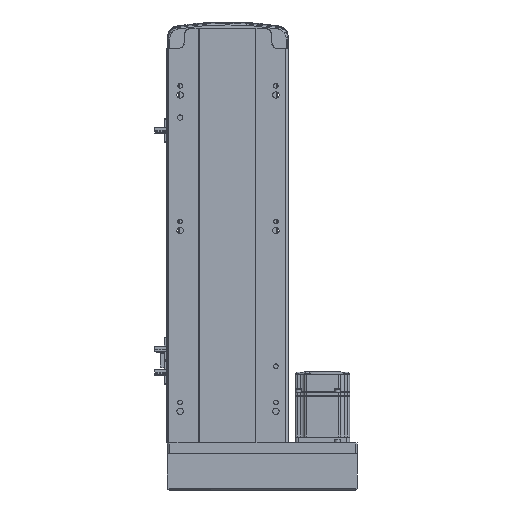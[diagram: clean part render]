
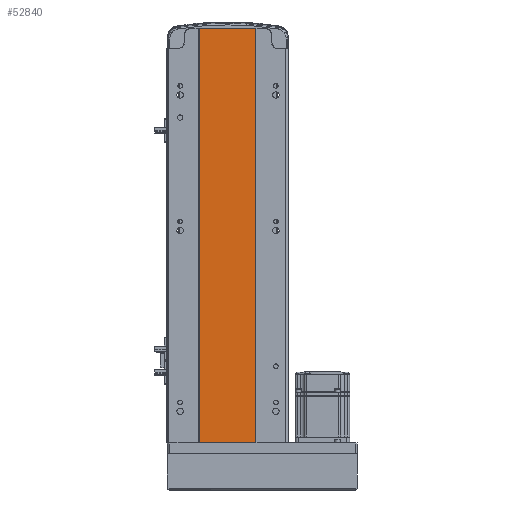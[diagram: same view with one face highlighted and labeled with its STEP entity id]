
A CAD part, front view. The second image highlights one B-rep face of the part: STEP entity #52840.
In plain terms, the highlighted planar face has unit normal (0, -1, 0).
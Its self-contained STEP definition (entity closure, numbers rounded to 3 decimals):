
#564 = VECTOR ( 'NONE', #15394, 1000. ) ;
#2330 = VERTEX_POINT ( 'NONE', #35107 ) ;
#2711 = DIRECTION ( 'NONE',  ( 0., 1., 0. ) ) ;
#3604 = CARTESIAN_POINT ( 'NONE',  ( -32., 1., 459. ) ) ;
#6360 = ORIENTED_EDGE ( 'NONE', *, *, #21167, .F. ) ;
#6529 = LINE ( 'NONE', #9512, #16705 ) ;
#8148 = AXIS2_PLACEMENT_3D ( 'NONE', #15619, #2711, #36917 ) ;
#9364 = VERTEX_POINT ( 'NONE', #3604 ) ;
#9512 = CARTESIAN_POINT ( 'NONE',  ( 30., 1., 459. ) ) ;
#15394 = DIRECTION ( 'NONE',  ( 1., 0., 0. ) ) ;
#15619 = CARTESIAN_POINT ( 'NONE',  ( -32., 1., 459. ) ) ;
#16705 = VECTOR ( 'NONE', #43907, 1000. ) ;
#17707 = CARTESIAN_POINT ( 'NONE',  ( -32., 1., 0. ) ) ;
#17802 = VECTOR ( 'NONE', #20585, 1000. ) ;
#18677 = VERTEX_POINT ( 'NONE', #34249 ) ;
#19467 = LINE ( 'NONE', #17707, #52137 ) ;
#20195 = ORIENTED_EDGE ( 'NONE', *, *, #47502, .T. ) ;
#20585 = DIRECTION ( 'NONE',  ( 0., 0., -1. ) ) ;
#21167 = EDGE_CURVE ( 'NONE', #37291, #2330, #6529, .T. ) ;
#26454 = FACE_OUTER_BOUND ( 'NONE', #50500, .T. ) ;
#28158 = PLANE ( 'NONE',  #8148 ) ;
#31431 = LINE ( 'NONE', #49534, #17802 ) ;
#33872 = LINE ( 'NONE', #47103, #564 ) ;
#34249 = CARTESIAN_POINT ( 'NONE',  ( -32., 1., 0. ) ) ;
#35031 = DIRECTION ( 'NONE',  ( 1., 0., 0. ) ) ;
#35107 = CARTESIAN_POINT ( 'NONE',  ( 30., 1., 0. ) ) ;
#36917 = DIRECTION ( 'NONE',  ( -1., 0., 0. ) ) ;
#37128 = EDGE_CURVE ( 'NONE', #9364, #37291, #33872, .T. ) ;
#37291 = VERTEX_POINT ( 'NONE', #48372 ) ;
#40019 = EDGE_CURVE ( 'NONE', #9364, #18677, #31431, .T. ) ;
#43907 = DIRECTION ( 'NONE',  ( 0., 0., -1. ) ) ;
#47103 = CARTESIAN_POINT ( 'NONE',  ( -32., 1., 459. ) ) ;
#47502 = EDGE_CURVE ( 'NONE', #18677, #2330, #19467, .T. ) ;
#48372 = CARTESIAN_POINT ( 'NONE',  ( 30., 1., 459. ) ) ;
#49182 = ORIENTED_EDGE ( 'NONE', *, *, #40019, .T. ) ;
#49534 = CARTESIAN_POINT ( 'NONE',  ( -32., 1., 459. ) ) ;
#50500 = EDGE_LOOP ( 'NONE', ( #20195, #6360, #50579, #49182 ) ) ;
#50579 = ORIENTED_EDGE ( 'NONE', *, *, #37128, .F. ) ;
#52137 = VECTOR ( 'NONE', #35031, 1000. ) ;
#52840 = ADVANCED_FACE ( 'NONE', ( #26454 ), #28158, .F. ) ;
